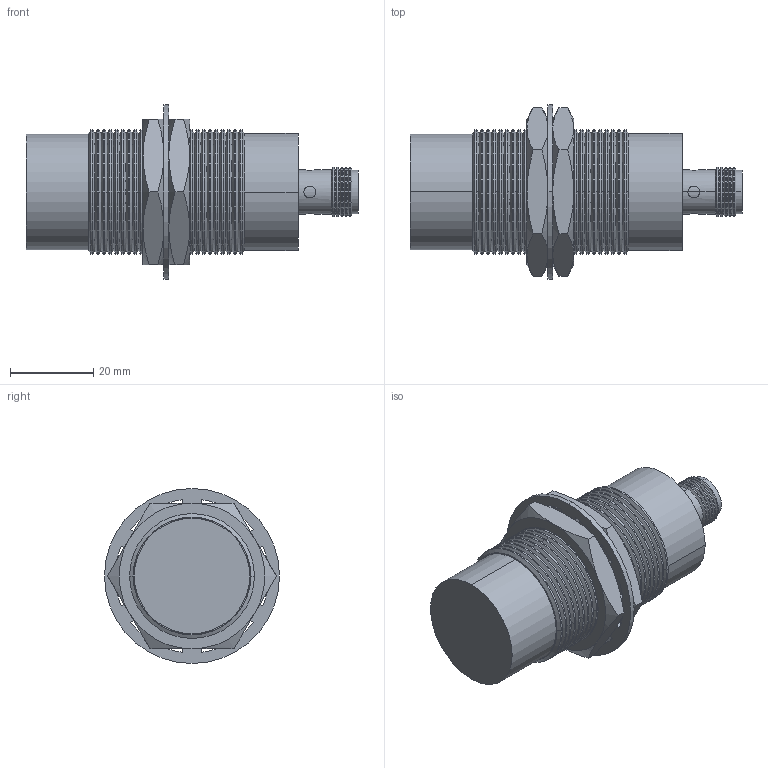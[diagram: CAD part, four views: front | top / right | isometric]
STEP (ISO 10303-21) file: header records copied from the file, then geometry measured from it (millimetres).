
FILE_DESCRIPTION (( 'STEP AP203' ), '1' );
FILE_NAME ('90-29417-064.STEP', '2015-11-15T19:32:31', ( 'Sam' ), ( 'Spade' ), 'SwSTEP 2.0', 'SolidWorks 2002296', '' );
FILE_SCHEMA (( 'CONFIG_CONTROL_DESIGN' ));
Length unit declared in the file: inch
Products named in the file (12): 90-29417-064; Imported102; Imported101; Imported100; Imported96; Imported106; Imported105; Imported104; Imported103; Imported99; Imported98; Imported97
Assembly tree (11 placements, depth 2):
  90-29417-064
    Imported106
    Imported101
    Imported100
    Imported105
    Imported104
    Imported96
    Imported98
    Imported103
    Imported99
    Imported102
    Imported97
Bounding box: 79.83 x 42.06 x 42.06 mm (x, y, z)
Volume: 47771.2 mm3; surface area: 18050.4 mm2
Topology: 11 solids, 11 shells, 388 faces, 927 edges, 555 vertices
Faces by surface type: cone 174, cylinder 133, plane 75, bspline 6
Entity records: 13055 total; most frequent: CARTESIAN_POINT 2584, DIRECTION 2087, ORIENTED_EDGE 1842, EDGE_CURVE 921, AXIS2_PLACEMENT_3D 834, VERTEX_POINT 555, CIRCLE 438, LINE 419
